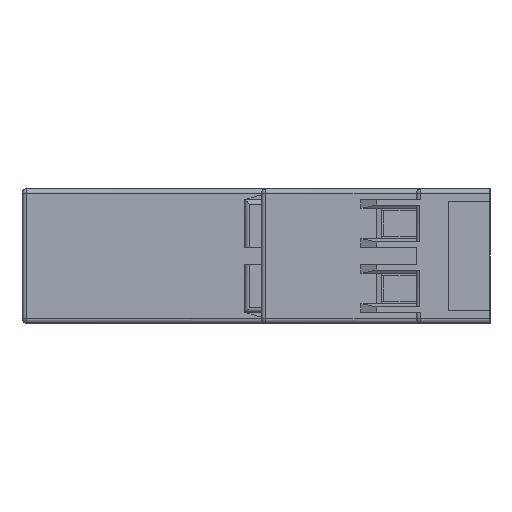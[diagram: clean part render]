
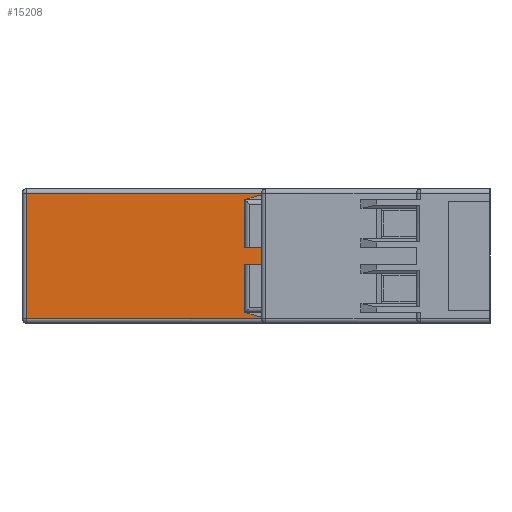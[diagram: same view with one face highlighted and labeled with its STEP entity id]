
A CAD part, left-side view. The second image highlights one B-rep face of the part: STEP entity #15208.
In plain terms, the highlighted planar face has unit normal (-1, 0, 0).
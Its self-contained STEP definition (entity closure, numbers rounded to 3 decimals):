
#831=FACE_OUTER_BOUND('',#1629,.T.);
#1629=EDGE_LOOP('',(#11787,#11788,#11789,#11790,#11791,#11792,#11793,#11794,
#11795,#11796,#11797,#11798));
#3390=LINE('',#23542,#5291);
#3391=LINE('',#23548,#5292);
#3393=LINE('',#23555,#5294);
#3394=LINE('',#23557,#5295);
#3395=LINE('',#23558,#5296);
#3396=LINE('',#23560,#5297);
#3397=LINE('',#23562,#5298);
#3398=LINE('',#23564,#5299);
#3399=LINE('',#23566,#5300);
#3400=LINE('',#23568,#5301);
#3401=LINE('',#23570,#5302);
#3402=LINE('',#23571,#5303);
#5291=VECTOR('',#18979,31.2);
#5292=VECTOR('',#18988,14.5);
#5294=VECTOR('',#18994,6.);
#5295=VECTOR('',#18995,0.75);
#5296=VECTOR('',#18996,31.2);
#5297=VECTOR('',#18997,0.75);
#5298=VECTOR('',#18998,6.);
#5299=VECTOR('',#18999,5.5);
#5300=VECTOR('',#19000,5.5);
#5301=VECTOR('',#19001,2.);
#5302=VECTOR('',#19002,5.5);
#5303=VECTOR('',#19003,5.5);
#6831=VERTEX_POINT('',#23539);
#6832=VERTEX_POINT('',#23541);
#6833=VERTEX_POINT('',#23547);
#6835=VERTEX_POINT('',#23553);
#6836=VERTEX_POINT('',#23554);
#6837=VERTEX_POINT('',#23556);
#6838=VERTEX_POINT('',#23559);
#6839=VERTEX_POINT('',#23561);
#6840=VERTEX_POINT('',#23563);
#6841=VERTEX_POINT('',#23565);
#6842=VERTEX_POINT('',#23567);
#6843=VERTEX_POINT('',#23569);
#8648=EDGE_CURVE('',#6831,#6832,#3390,.T.);
#8651=EDGE_CURVE('',#6832,#6833,#3391,.T.);
#8654=EDGE_CURVE('',#6835,#6836,#3393,.T.);
#8655=EDGE_CURVE('',#6837,#6836,#3394,.T.);
#8656=EDGE_CURVE('',#6833,#6837,#3395,.T.);
#8657=EDGE_CURVE('',#6838,#6831,#3396,.T.);
#8658=EDGE_CURVE('',#6839,#6838,#3397,.T.);
#8659=EDGE_CURVE('',#6840,#6839,#3398,.T.);
#8660=EDGE_CURVE('',#6840,#6841,#3399,.T.);
#8661=EDGE_CURVE('',#6842,#6841,#3400,.T.);
#8662=EDGE_CURVE('',#6843,#6842,#3401,.T.);
#8663=EDGE_CURVE('',#6835,#6843,#3402,.T.);
#11787=ORIENTED_EDGE('',*,*,#8654,.T.);
#11788=ORIENTED_EDGE('',*,*,#8655,.F.);
#11789=ORIENTED_EDGE('',*,*,#8656,.F.);
#11790=ORIENTED_EDGE('',*,*,#8651,.F.);
#11791=ORIENTED_EDGE('',*,*,#8648,.F.);
#11792=ORIENTED_EDGE('',*,*,#8657,.F.);
#11793=ORIENTED_EDGE('',*,*,#8658,.F.);
#11794=ORIENTED_EDGE('',*,*,#8659,.F.);
#11795=ORIENTED_EDGE('',*,*,#8660,.T.);
#11796=ORIENTED_EDGE('',*,*,#8661,.F.);
#11797=ORIENTED_EDGE('',*,*,#8662,.F.);
#11798=ORIENTED_EDGE('',*,*,#8663,.F.);
#13776=PLANE('',#16074);
#15208=ADVANCED_FACE('',(#831),#13776,.F.);
#16074=AXIS2_PLACEMENT_3D('',#23552,#18992,#18993);
#18979=DIRECTION('',(0.,1.,0.));
#18988=DIRECTION('',(0.,0.,1.));
#18992=DIRECTION('center_axis',(1.,0.,0.));
#18993=DIRECTION('ref_axis',(0.,0.,-1.));
#18994=DIRECTION('',(0.,-1.,0.));
#18995=DIRECTION('',(0.,0.,-1.));
#18996=DIRECTION('',(0.,-1.,0.));
#18997=DIRECTION('',(0.,0.,-1.));
#18998=DIRECTION('',(0.,-1.,0.));
#18999=DIRECTION('',(0.,0.,-1.));
#19000=DIRECTION('',(0.,-1.,0.));
#19001=DIRECTION('',(0.,0.,-1.));
#19002=DIRECTION('',(0.,-1.,0.));
#19003=DIRECTION('',(0.,0.,-1.));
#23539=CARTESIAN_POINT('',(1309.037,918.928,0.5));
#23541=CARTESIAN_POINT('',(1309.037,950.128,0.5));
#23542=CARTESIAN_POINT('',(1309.037,918.928,0.5));
#23547=CARTESIAN_POINT('',(1309.037,950.128,15.));
#23548=CARTESIAN_POINT('',(1309.037,950.128,0.5));
#23552=CARTESIAN_POINT('Origin',(1309.037,950.628,15.5));
#23553=CARTESIAN_POINT('',(1309.037,924.928,14.25));
#23554=CARTESIAN_POINT('',(1309.037,918.928,14.25));
#23555=CARTESIAN_POINT('',(1309.037,924.928,14.25));
#23556=CARTESIAN_POINT('',(1309.037,918.928,15.));
#23557=CARTESIAN_POINT('',(1309.037,918.928,15.));
#23558=CARTESIAN_POINT('',(1309.037,950.128,15.));
#23559=CARTESIAN_POINT('',(1309.037,918.928,1.25));
#23560=CARTESIAN_POINT('',(1309.037,918.928,1.25));
#23561=CARTESIAN_POINT('',(1309.037,924.928,1.25));
#23562=CARTESIAN_POINT('',(1309.037,924.928,1.25));
#23563=CARTESIAN_POINT('',(1309.037,924.928,6.75));
#23564=CARTESIAN_POINT('',(1309.037,924.928,6.75));
#23565=CARTESIAN_POINT('',(1309.037,919.428,6.75));
#23566=CARTESIAN_POINT('',(1309.037,924.928,6.75));
#23567=CARTESIAN_POINT('',(1309.037,919.428,8.75));
#23568=CARTESIAN_POINT('',(1309.037,919.428,8.75));
#23569=CARTESIAN_POINT('',(1309.037,924.928,8.75));
#23570=CARTESIAN_POINT('',(1309.037,924.928,8.75));
#23571=CARTESIAN_POINT('',(1309.037,924.928,14.25));
